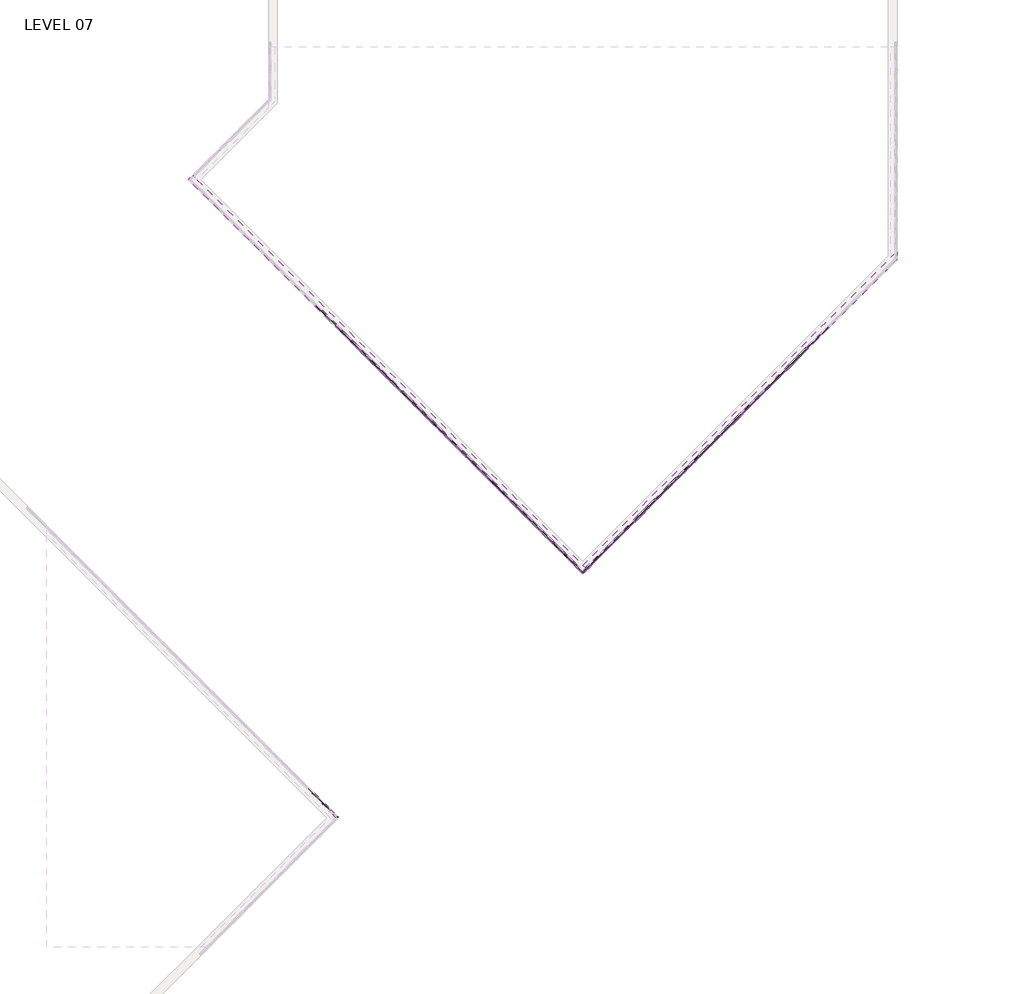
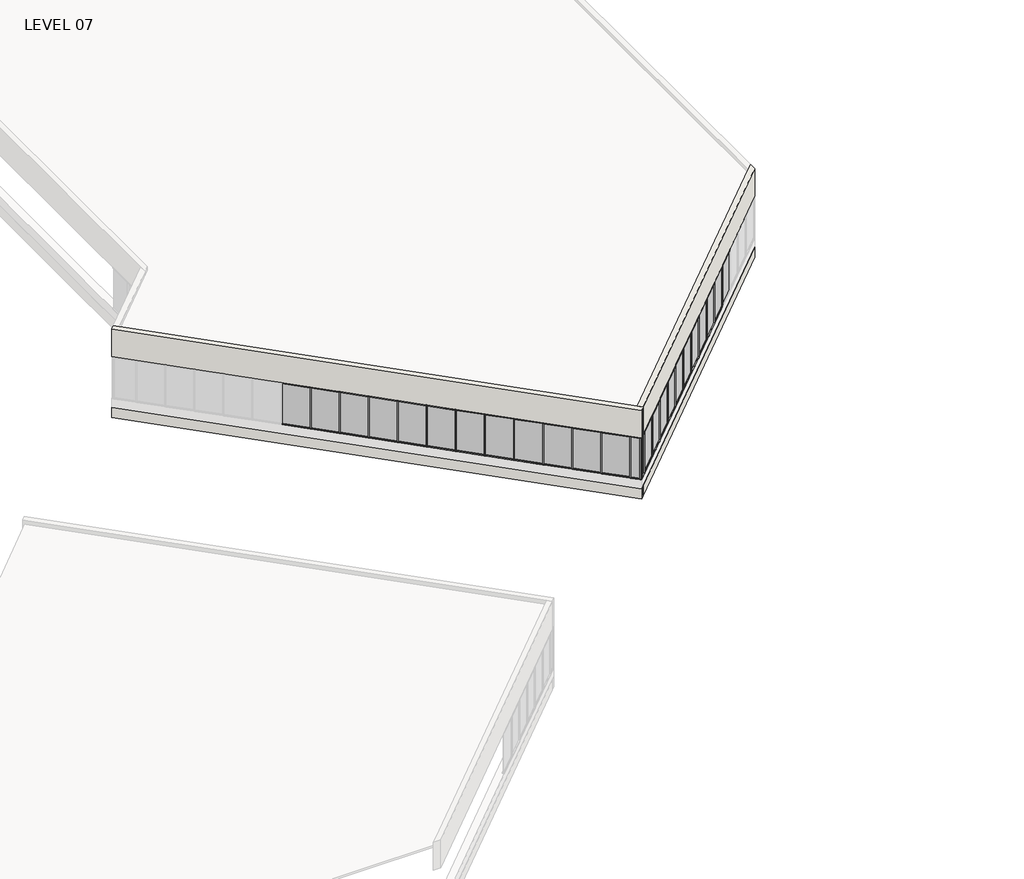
# One storey, part 11 of 18: 77 members, 25 plates, 4 walls.
"""IFC4 building model written with IfcOpenShell, lengths in millimetres."""

from ifc_helpers import new_model, si_unit, origin, place, context, project, spatial, faceted_brep, transform, mapped, element, save
from components import member_5247f267, member_e44af9ab, member_800970d4, member_25b26a38, member_ac5115e9, member_910c08c9, plate_67294edd, plate_6d527a83, plate_88df3e37, plate_c01932d8

model = new_model("IFC4")

# Units and contexts
model_context = context("Model", 3, world=origin())
ifc_project = project(units=[si_unit("LENGTHUNIT", "METRE", prefix="MILLI")], contexts=[model_context])

# Site, building, storey
site = spatial("IfcSite", under=ifc_project)
building = spatial("IfcBuilding", under=site)
storey = spatial("IfcBuildingStorey", under=building, Name="LEVEL 07", Elevation=23368.0)

# Members
placement = place(None, origin())
member_shape = member_5247f267(model_context)
element("IfcMember", 1, ObjectType="Rectangular Mullion : 2\" x 4.5\" rectangular", at=placement, inside=storey, context=model_context, shape_type="MappedRepresentation", body=[
    mapped(member_shape, transform((64227.3404937, 10894.4485141, 23368.0), x_axis=(0.0, 0.0, -1.0), y_axis=(0.7071067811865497, 0.7071067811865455, 0.0), z_axis=(0.7071067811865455, -0.7071067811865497, 0.0))),
])
member_2_shape = member_e44af9ab(model_context)
element("IfcMember", 2, ObjectType="Rectangular Mullion : 2\" x 4.5\" rectangular", at=placement, inside=storey, context=model_context, shape_type="MappedRepresentation", body=[
    mapped(member_2_shape, transform((64245.3010059, 10876.4880018, 23368.0), x_axis=(-0.7071067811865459, 0.7071067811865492, 0.0), y_axis=(0.7071067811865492, 0.7071067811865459, 0.0), z_axis=(0.0, 0.0, -1.0))),
])
member_3_shape = member_800970d4(model_context)
element("IfcMember", 3, ObjectType="Rectangular Mullion : 2\" x 4.5\" rectangular", at=placement, inside=storey, context=model_context, shape_type="MappedRepresentation", body=[
    mapped(member_3_shape, transform((64627.7311356, 10494.0578721, 25958.8), x_axis=(0.7071067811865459, -0.7071067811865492, 0.0), y_axis=(0.7071067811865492, 0.7071067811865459, 0.0), z_axis=(0.0, 0.0, 1.0))),
])
member_4_shape = member_25b26a38(model_context)
element("IfcMember", 4, ObjectType="Rectangular Mullion : 2\" x 4.5\" rectangular", at=placement, inside=storey, context=model_context, shape_type="MappedRepresentation", body=[
    mapped(member_4_shape, transform((64263.2615182, 10858.5274896, 25958.8), x_axis=(0.0, 0.0, 1.0), y_axis=(0.7071067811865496, 0.7071067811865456, 0.0), z_axis=(-0.7071067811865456, 0.7071067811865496, 0.0))),
])
element("IfcMember", 5, ObjectType="Rectangular Mullion : 2\" x 4.5\" rectangular", at=placement, inside=storey, context=model_context, shape_type="MappedRepresentation", body=[
    mapped(member_shape, transform((88026.379031, 33892.7057675, 25958.8), x_axis=(0.0, 0.0, 1.0), y_axis=(-0.707106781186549, 0.7071067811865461, 0.0), z_axis=(-0.7071067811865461, -0.707106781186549, 0.0))),
])
element("IfcMember", 6, ObjectType="Rectangular Mullion : 2\" x 4.5\" rectangular", at=placement, inside=storey, context=model_context, shape_type="MappedRepresentation", body=[
    mapped(member_shape, transform((85871.1175619, 31737.4442984, 25958.8), x_axis=(0.0, 0.0, 1.0), y_axis=(-0.7071067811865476, 0.7071067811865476, 0.0), z_axis=(-0.7071067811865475, -0.7071067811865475, 0.0))),
])
element("IfcMember", 7, ObjectType="Rectangular Mullion : 2\" x 4.5\" rectangular", at=placement, inside=storey, context=model_context, shape_type="MappedRepresentation", body=[
    mapped(member_shape, transform((84793.4868274, 30659.8135639, 25958.8), x_axis=(0.0, 0.0, 1.0), y_axis=(-0.7071067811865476, 0.7071067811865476, 0.0), z_axis=(-0.7071067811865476, -0.7071067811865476, 0.0))),
])
element("IfcMember", 8, ObjectType="Rectangular Mullion : 2\" x 4.5\" rectangular", at=placement, inside=storey, context=model_context, shape_type="MappedRepresentation", body=[
    mapped(member_shape, transform((83715.8560929, 29582.1828294, 25958.8), x_axis=(0.0, 0.0, 1.0), y_axis=(-0.7071067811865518, 0.7071067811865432, 0.0), z_axis=(-0.7071067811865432, -0.7071067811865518, 0.0))),
])
element("IfcMember", 9, ObjectType="Rectangular Mullion : 2\" x 4.5\" rectangular", at=placement, inside=storey, context=model_context, shape_type="MappedRepresentation", body=[
    mapped(member_shape, transform((78327.7024202, 24194.0291567, 25958.8), x_axis=(0.0, 0.0, 1.0), y_axis=(-0.7071067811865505, 0.7071067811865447, 0.0), z_axis=(-0.7071067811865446, -0.7071067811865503, 0.0))),
])
element("IfcMember", 10, ObjectType="Rectangular Mullion : 2\" x 4.5\" rectangular", at=placement, inside=storey, context=model_context, shape_type="MappedRepresentation", body=[
    mapped(member_shape, transform((86948.7482965, 32815.0750329, 25958.8), x_axis=(0.0, 0.0, 1.0), y_axis=(-0.7071067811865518, 0.7071067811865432, 0.0), z_axis=(-0.7071067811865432, -0.7071067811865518, 0.0))),
])
element("IfcMember", 11, ObjectType="Rectangular Mullion : 2\" x 4.5\" rectangular", at=placement, inside=storey, context=model_context, shape_type="MappedRepresentation", body=[
    mapped(member_shape, transform((81560.5946238, 27426.9213603, 25958.8), x_axis=(0.0, 0.0, 1.0), y_axis=(-0.7071067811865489, 0.7071067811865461, 0.0), z_axis=(-0.7071067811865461, -0.7071067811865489, 0.0))),
])
element("IfcMember", 12, ObjectType="Rectangular Mullion : 2\" x 4.5\" rectangular", at=placement, inside=storey, context=model_context, shape_type="MappedRepresentation", body=[
    mapped(member_shape, transform((82638.2253583, 28504.5520948, 25958.8), x_axis=(0.0, 0.0, 1.0), y_axis=(-0.7071067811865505, 0.7071067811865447, 0.0), z_axis=(-0.7071067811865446, -0.7071067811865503, 0.0))),
])
element("IfcMember", 13, ObjectType="Rectangular Mullion : 2\" x 4.5\" rectangular", at=placement, inside=storey, context=model_context, shape_type="MappedRepresentation", body=[
    mapped(member_shape, transform((80482.9638893, 26349.2906258, 25958.8), x_axis=(0.0, 0.0, 1.0), y_axis=(-0.7071067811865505, 0.7071067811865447, 0.0), z_axis=(-0.7071067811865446, -0.7071067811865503, 0.0))),
])
element("IfcMember", 14, ObjectType="Rectangular Mullion : 2\" x 4.5\" rectangular", at=placement, inside=storey, context=model_context, shape_type="MappedRepresentation", body=[
    mapped(member_shape, transform((79405.3331548, 25271.6598913, 25958.8), x_axis=(0.0, 0.0, 1.0), y_axis=(-0.7071067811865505, 0.7071067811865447, 0.0), z_axis=(-0.7071067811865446, -0.7071067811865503, 0.0))),
])
element("IfcMember", 15, ObjectType="Rectangular Mullion : 2\" x 4.5\" rectangular", at=placement, inside=storey, context=model_context, shape_type="MappedRepresentation", body=[
    mapped(member_shape, transform((77250.0716857, 23116.3984222, 25958.8), x_axis=(0.0, 0.0, 1.0), y_axis=(-0.7071067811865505, 0.7071067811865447, 0.0), z_axis=(-0.7071067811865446, -0.7071067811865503, 0.0))),
])
element("IfcMember", 16, ObjectType="Rectangular Mullion : 2\" x 4.5\" rectangular", at=placement, inside=storey, context=model_context, shape_type="MappedRepresentation", body=[
    mapped(member_shape, transform((75407.7593644, 24158.2868049, 25958.8), x_axis=(0.0, 0.0, 1.0), y_axis=(0.7071067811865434, 0.7071067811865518, 0.0), z_axis=(-0.7071067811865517, 0.7071067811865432, 0.0))),
])
element("IfcMember", 17, ObjectType="Rectangular Mullion : 2\" x 4.5\" rectangular", at=placement, inside=storey, context=model_context, shape_type="MappedRepresentation", body=[
    mapped(member_shape, transform((74330.1286299, 25235.9175394, 25958.8), x_axis=(0.0, 0.0, 1.0), y_axis=(0.7071067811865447, 0.7071067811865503, 0.0), z_axis=(-0.7071067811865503, 0.7071067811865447, 0.0))),
])
element("IfcMember", 18, ObjectType="Rectangular Mullion : 2\" x 4.5\" rectangular", at=placement, inside=storey, context=model_context, shape_type="MappedRepresentation", body=[
    mapped(member_shape, transform((73252.4978954, 26313.5482739, 25958.8), x_axis=(0.0, 0.0, 1.0), y_axis=(0.7071067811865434, 0.7071067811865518, 0.0), z_axis=(-0.7071067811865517, 0.7071067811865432, 0.0))),
])
element("IfcMember", 19, ObjectType="Rectangular Mullion : 2\" x 4.5\" rectangular", at=placement, inside=storey, context=model_context, shape_type="MappedRepresentation", body=[
    mapped(member_shape, transform((71097.2364263, 28468.809743, 25958.8), x_axis=(0.0, 0.0, 1.0), y_axis=(0.7071067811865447, 0.7071067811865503, 0.0), z_axis=(-0.7071067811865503, 0.7071067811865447, 0.0))),
])
element("IfcMember", 20, ObjectType="Rectangular Mullion : 2\" x 4.5\" rectangular", at=placement, inside=storey, context=model_context, shape_type="MappedRepresentation", body=[
    mapped(member_shape, transform((70019.6056918, 29546.4404775, 25958.8), x_axis=(0.0, 0.0, 1.0), y_axis=(0.7071067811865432, 0.7071067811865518, 0.0), z_axis=(-0.7071067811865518, 0.7071067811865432, 0.0))),
])
element("IfcMember", 21, ObjectType="Rectangular Mullion : 2\" x 4.5\" rectangular", at=placement, inside=storey, context=model_context, shape_type="MappedRepresentation", body=[
    mapped(member_shape, transform((68941.9749572, 30624.071212, 25958.8), x_axis=(0.0, 0.0, 1.0), y_axis=(0.7071067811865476, 0.7071067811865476, 0.0), z_axis=(-0.7071067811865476, 0.7071067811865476, 0.0))),
])
element("IfcMember", 22, ObjectType="Rectangular Mullion : 2\" x 4.5\" rectangular", at=placement, inside=storey, context=model_context, shape_type="MappedRepresentation", body=[
    mapped(member_shape, transform((67864.3442227, 31701.7019466, 25958.8), x_axis=(0.0, 0.0, 1.0), y_axis=(0.7071067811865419, 0.7071067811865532, 0.0), z_axis=(-0.7071067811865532, 0.7071067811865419, 0.0))),
])
element("IfcMember", 23, ObjectType="Rectangular Mullion : 2\" x 4.5\" rectangular", at=placement, inside=storey, context=model_context, shape_type="MappedRepresentation", body=[
    mapped(member_shape, transform((64631.8093644, 34934.2368049, 25958.8), x_axis=(0.0, 0.0, 1.0), y_axis=(0.7071067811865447, 0.7071067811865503, 0.0), z_axis=(-0.7071067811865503, 0.7071067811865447, 0.0))),
])
element("IfcMember", 24, ObjectType="Rectangular Mullion : 2\" x 4.5\" rectangular", at=placement, inside=storey, context=model_context, shape_type="MappedRepresentation", body=[
    mapped(member_shape, transform((72174.8671608, 27391.1790085, 25958.8), x_axis=(0.0, 0.0, 1.0), y_axis=(0.7071067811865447, 0.7071067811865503, 0.0), z_axis=(-0.7071067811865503, 0.7071067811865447, 0.0))),
])
element("IfcMember", 25, ObjectType="Rectangular Mullion : 2\" x 4.5\" rectangular", at=placement, inside=storey, context=model_context, shape_type="MappedRepresentation", body=[
    mapped(member_shape, transform((87990.4580065, 33856.784743, 23368.0), x_axis=(0.0, 0.0, -1.0), y_axis=(-0.7071067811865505, 0.7071067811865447, 0.0), z_axis=(0.7071067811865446, 0.7071067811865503, 0.0))),
])
element("IfcMember", 26, ObjectType="Rectangular Mullion : 2\" x 4.5\" rectangular", at=placement, inside=storey, context=model_context, shape_type="MappedRepresentation", body=[
    mapped(member_shape, transform((85835.1965374, 31701.5232739, 23368.0), x_axis=(0.0, 0.0, -1.0), y_axis=(-0.7071067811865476, 0.7071067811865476, 0.0), z_axis=(0.7071067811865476, 0.7071067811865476, 0.0))),
])
element("IfcMember", 27, ObjectType="Rectangular Mullion : 2\" x 4.5\" rectangular", at=placement, inside=storey, context=model_context, shape_type="MappedRepresentation", body=[
    mapped(member_shape, transform((84757.5658029, 30623.8925394, 23368.0), x_axis=(0.0, 0.0, -1.0), y_axis=(-0.7071067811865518, 0.7071067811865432, 0.0), z_axis=(0.7071067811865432, 0.7071067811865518, 0.0))),
])
element("IfcMember", 28, ObjectType="Rectangular Mullion : 2\" x 4.5\" rectangular", at=placement, inside=storey, context=model_context, shape_type="MappedRepresentation", body=[
    mapped(member_shape, transform((83679.9350684, 29546.2618049, 23368.0), x_axis=(0.0, 0.0, -1.0), y_axis=(-0.7071067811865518, 0.7071067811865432, 0.0), z_axis=(0.7071067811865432, 0.7071067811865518, 0.0))),
])
element("IfcMember", 29, ObjectType="Rectangular Mullion : 2\" x 4.5\" rectangular", at=placement, inside=storey, context=model_context, shape_type="MappedRepresentation", body=[
    mapped(member_shape, transform((78291.7813957, 24158.1081322, 23368.0), x_axis=(0.0, 0.0, -1.0), y_axis=(-0.7071067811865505, 0.7071067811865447, 0.0), z_axis=(0.7071067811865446, 0.7071067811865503, 0.0))),
])
element("IfcMember", 30, ObjectType="Rectangular Mullion : 2\" x 4.5\" rectangular", at=placement, inside=storey, context=model_context, shape_type="MappedRepresentation", body=[
    mapped(member_shape, transform((86912.827272, 32779.1540085, 23368.0), x_axis=(0.0, 0.0, -1.0), y_axis=(-0.7071067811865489, 0.7071067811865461, 0.0), z_axis=(0.7071067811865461, 0.7071067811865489, 0.0))),
])
element("IfcMember", 31, ObjectType="Rectangular Mullion : 2\" x 4.5\" rectangular", at=placement, inside=storey, context=model_context, shape_type="MappedRepresentation", body=[
    mapped(member_shape, transform((81524.6735993, 27391.0003358, 23368.0), x_axis=(0.0, 0.0, -1.0), y_axis=(-0.707106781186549, 0.7071067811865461, 0.0), z_axis=(0.7071067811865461, 0.707106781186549, 0.0))),
])
element("IfcMember", 32, ObjectType="Rectangular Mullion : 2\" x 4.5\" rectangular", at=placement, inside=storey, context=model_context, shape_type="MappedRepresentation", body=[
    mapped(member_shape, transform((82602.3043339, 28468.6310704, 23368.0), x_axis=(0.0, 0.0, -1.0), y_axis=(-0.7071067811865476, 0.7071067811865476, 0.0), z_axis=(0.7071067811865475, 0.7071067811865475, 0.0))),
])
element("IfcMember", 33, ObjectType="Rectangular Mullion : 2\" x 4.5\" rectangular", at=placement, inside=storey, context=model_context, shape_type="MappedRepresentation", body=[
    mapped(member_shape, transform((80447.0428648, 26313.3696013, 23368.0), x_axis=(0.0, 0.0, -1.0), y_axis=(-0.7071067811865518, 0.7071067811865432, 0.0), z_axis=(0.7071067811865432, 0.7071067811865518, 0.0))),
])
element("IfcMember", 34, ObjectType="Rectangular Mullion : 2\" x 4.5\" rectangular", at=placement, inside=storey, context=model_context, shape_type="MappedRepresentation", body=[
    mapped(member_shape, transform((79369.4121303, 25235.7388668, 23368.0), x_axis=(0.0, 0.0, -1.0), y_axis=(-0.7071067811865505, 0.7071067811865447, 0.0), z_axis=(0.7071067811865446, 0.7071067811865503, 0.0))),
])
element("IfcMember", 35, ObjectType="Rectangular Mullion : 2\" x 4.5\" rectangular", at=placement, inside=storey, context=model_context, shape_type="MappedRepresentation", body=[
    mapped(member_shape, transform((75371.8383399, 24194.2078294, 23368.0), x_axis=(0.0, 0.0, -1.0), y_axis=(0.7071067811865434, 0.7071067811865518, 0.0), z_axis=(0.7071067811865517, -0.7071067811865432, 0.0))),
])
element("IfcMember", 36, ObjectType="Rectangular Mullion : 2\" x 4.5\" rectangular", at=placement, inside=storey, context=model_context, shape_type="MappedRepresentation", body=[
    mapped(member_shape, transform((74294.2076054, 25271.8385639, 23368.0), x_axis=(0.0, 0.0, -1.0), y_axis=(0.7071067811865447, 0.7071067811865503, 0.0), z_axis=(0.7071067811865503, -0.7071067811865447, 0.0))),
])
element("IfcMember", 37, ObjectType="Rectangular Mullion : 2\" x 4.5\" rectangular", at=placement, inside=storey, context=model_context, shape_type="MappedRepresentation", body=[
    mapped(member_shape, transform((73216.5768709, 26349.4692984, 23368.0), x_axis=(0.0, 0.0, -1.0), y_axis=(0.7071067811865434, 0.7071067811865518, 0.0), z_axis=(0.7071067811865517, -0.7071067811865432, 0.0))),
])
element("IfcMember", 38, ObjectType="Rectangular Mullion : 2\" x 4.5\" rectangular", at=placement, inside=storey, context=model_context, shape_type="MappedRepresentation", body=[
    mapped(member_shape, transform((71061.3154018, 28504.7307675, 23368.0), x_axis=(0.0, 0.0, -1.0), y_axis=(0.7071067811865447, 0.7071067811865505, 0.0), z_axis=(0.7071067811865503, -0.7071067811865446, 0.0))),
])
element("IfcMember", 39, ObjectType="Rectangular Mullion : 2\" x 4.5\" rectangular", at=placement, inside=storey, context=model_context, shape_type="MappedRepresentation", body=[
    mapped(member_shape, transform((69983.6846673, 29582.361502, 23368.0), x_axis=(0.0, 0.0, -1.0), y_axis=(0.7071067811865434, 0.7071067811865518, 0.0), z_axis=(0.7071067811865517, -0.7071067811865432, 0.0))),
])
element("IfcMember", 40, ObjectType="Rectangular Mullion : 2\" x 4.5\" rectangular", at=placement, inside=storey, context=model_context, shape_type="MappedRepresentation", body=[
    mapped(member_shape, transform((68906.0539328, 30659.9922365, 23368.0), x_axis=(0.0, 0.0, -1.0), y_axis=(0.7071067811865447, 0.7071067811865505, 0.0), z_axis=(0.7071067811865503, -0.7071067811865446, 0.0))),
])
element("IfcMember", 41, ObjectType="Rectangular Mullion : 2\" x 4.5\" rectangular", at=placement, inside=storey, context=model_context, shape_type="MappedRepresentation", body=[
    mapped(member_shape, transform((65673.5190745, 33892.5270948, 23368.0), x_axis=(0.0, 0.0, -1.0), y_axis=(0.7071067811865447, 0.7071067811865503, 0.0), z_axis=(0.7071067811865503, -0.7071067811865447, 0.0))),
])
element("IfcMember", 42, ObjectType="Rectangular Mullion : 2\" x 4.5\" rectangular", at=placement, inside=storey, context=model_context, shape_type="MappedRepresentation", body=[
    mapped(member_shape, transform((64595.8883399, 34970.1578294, 23368.0), x_axis=(0.0, 0.0, -1.0), y_axis=(0.7071067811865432, 0.7071067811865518, 0.0), z_axis=(0.7071067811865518, -0.7071067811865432, 0.0))),
])
element("IfcMember", 43, ObjectType="Rectangular Mullion : 2\" x 4.5\" rectangular", at=placement, inside=storey, context=model_context, shape_type="MappedRepresentation", body=[
    mapped(member_shape, transform((72138.9461363, 27427.1000329, 23368.0), x_axis=(0.0, 0.0, -1.0), y_axis=(0.7071067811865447, 0.7071067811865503, 0.0), z_axis=(0.7071067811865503, -0.7071067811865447, 0.0))),
])
element("IfcMember", 44, ObjectType="Rectangular Mullion : 2\" x 4.5\" rectangular", at=placement, inside=storey, context=model_context, shape_type="MappedRepresentation", body=[
    mapped(member_shape, transform((76449.4690745, 23116.5770948, 23368.0), x_axis=(0.0, 0.0, -1.0), y_axis=(0.7071067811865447, 0.7071067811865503, 0.0), z_axis=(0.7071067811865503, -0.7071067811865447, 0.0))),
])
element("IfcMember", 45, ObjectType="Rectangular Mullion : 2\" x 4.5\" rectangular", at=placement, inside=storey, context=model_context, shape_type="MappedRepresentation", body=[
    mapped(member_2_shape, transform((88008.4185187, 33874.7452552, 23368.0), x_axis=(-0.7071067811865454, -0.7071067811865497, 0.0), y_axis=(-0.7071067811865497, 0.7071067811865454, 0.0), z_axis=(0.0, 0.0, -1.0))),
])
element("IfcMember", 46, ObjectType="Rectangular Mullion : 2\" x 4.5\" rectangular", at=placement, inside=storey, context=model_context, shape_type="MappedRepresentation", body=[
    mapped(member_2_shape, transform((85853.1570497, 31719.4837862, 23368.0), x_axis=(-0.7071067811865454, -0.7071067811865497, 0.0), y_axis=(-0.7071067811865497, 0.7071067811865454, 0.0), z_axis=(0.0, 0.0, -1.0))),
])
element("IfcMember", 47, ObjectType="Rectangular Mullion : 2\" x 4.5\" rectangular", at=placement, inside=storey, context=model_context, shape_type="MappedRepresentation", body=[
    mapped(member_2_shape, transform((84775.5263152, 30641.8530517, 23368.0), x_axis=(-0.7071067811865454, -0.7071067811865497, 0.0), y_axis=(-0.7071067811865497, 0.7071067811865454, 0.0), z_axis=(0.0, 0.0, -1.0))),
])
element("IfcMember", 48, ObjectType="Rectangular Mullion : 2\" x 4.5\" rectangular", at=placement, inside=storey, context=model_context, shape_type="MappedRepresentation", body=[
    mapped(member_2_shape, transform((83697.8955806, 29564.2223171, 23368.0), x_axis=(-0.7071067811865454, -0.7071067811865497, 0.0), y_axis=(-0.7071067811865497, 0.7071067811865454, 0.0), z_axis=(0.0, 0.0, -1.0))),
])
element("IfcMember", 49, ObjectType="Rectangular Mullion : 2\" x 4.5\" rectangular", at=placement, inside=storey, context=model_context, shape_type="MappedRepresentation", body=[
    mapped(member_2_shape, transform((78309.741908, 24176.0686445, 23368.0), x_axis=(-0.7071067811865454, -0.7071067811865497, 0.0), y_axis=(-0.7071067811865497, 0.7071067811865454, 0.0), z_axis=(0.0, 0.0, -1.0))),
])
element("IfcMember", 50, ObjectType="Rectangular Mullion : 2\" x 4.5\" rectangular", at=placement, inside=storey, context=model_context, shape_type="MappedRepresentation", body=[
    mapped(member_2_shape, transform((86930.7877842, 32797.1145207, 23368.0), x_axis=(-0.7071067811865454, -0.7071067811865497, 0.0), y_axis=(-0.7071067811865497, 0.7071067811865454, 0.0), z_axis=(0.0, 0.0, -1.0))),
])
element("IfcMember", 51, ObjectType="Rectangular Mullion : 2\" x 4.5\" rectangular", at=placement, inside=storey, context=model_context, shape_type="MappedRepresentation", body=[
    mapped(member_2_shape, transform((81542.6341116, 27408.9608481, 23368.0), x_axis=(-0.7071067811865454, -0.7071067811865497, 0.0), y_axis=(-0.7071067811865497, 0.7071067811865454, 0.0), z_axis=(0.0, 0.0, -1.0))),
])
element("IfcMember", 52, ObjectType="Rectangular Mullion : 2\" x 4.5\" rectangular", at=placement, inside=storey, context=model_context, shape_type="MappedRepresentation", body=[
    mapped(member_2_shape, transform((82620.2648461, 28486.5915826, 23368.0), x_axis=(-0.7071067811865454, -0.7071067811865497, 0.0), y_axis=(-0.7071067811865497, 0.7071067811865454, 0.0), z_axis=(0.0, 0.0, -1.0))),
])
element("IfcMember", 53, ObjectType="Rectangular Mullion : 2\" x 4.5\" rectangular", at=placement, inside=storey, context=model_context, shape_type="MappedRepresentation", body=[
    mapped(member_2_shape, transform((80465.003377, 26331.3301135, 23368.0), x_axis=(-0.7071067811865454, -0.7071067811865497, 0.0), y_axis=(-0.7071067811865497, 0.7071067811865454, 0.0), z_axis=(0.0, 0.0, -1.0))),
])
element("IfcMember", 54, ObjectType="Rectangular Mullion : 2\" x 4.5\" rectangular", at=placement, inside=storey, context=model_context, shape_type="MappedRepresentation", body=[
    mapped(member_2_shape, transform((79387.3726425, 25253.699379, 23368.0), x_axis=(-0.7071067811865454, -0.7071067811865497, 0.0), y_axis=(-0.7071067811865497, 0.7071067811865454, 0.0), z_axis=(0.0, 0.0, -1.0))),
])
element("IfcMember", 55, ObjectType="Rectangular Mullion : 2\" x 4.5\" rectangular", at=placement, inside=storey, context=model_context, shape_type="MappedRepresentation", body=[
    mapped(member_2_shape, transform((77232.1111735, 23098.43791, 23368.0), x_axis=(-0.7071067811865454, -0.7071067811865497, 0.0), y_axis=(-0.7071067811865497, 0.7071067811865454, 0.0), z_axis=(0.0, 0.0, -1.0))),
])
element("IfcMember", 56, ObjectType="Rectangular Mullion : 2\" x 4.5\" rectangular", at=placement, inside=storey, context=model_context, shape_type="MappedRepresentation", body=[
    mapped(member_2_shape, transform((75389.7988522, 24176.2473171, 23368.0), x_axis=(-0.7071067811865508, 0.7071067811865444, 0.0), y_axis=(0.7071067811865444, 0.7071067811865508, 0.0), z_axis=(0.0, 0.0, -1.0))),
])
element("IfcMember", 57, ObjectType="Rectangular Mullion : 2\" x 4.5\" rectangular", at=placement, inside=storey, context=model_context, shape_type="MappedRepresentation", body=[
    mapped(member_2_shape, transform((74312.1681176, 25253.8780517, 23368.0), x_axis=(-0.7071067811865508, 0.7071067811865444, 0.0), y_axis=(0.7071067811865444, 0.7071067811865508, 0.0), z_axis=(0.0, 0.0, -1.0))),
])
element("IfcMember", 58, ObjectType="Rectangular Mullion : 2\" x 4.5\" rectangular", at=placement, inside=storey, context=model_context, shape_type="MappedRepresentation", body=[
    mapped(member_2_shape, transform((73234.5373831, 26331.5087862, 23368.0), x_axis=(-0.7071067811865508, 0.7071067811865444, 0.0), y_axis=(0.7071067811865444, 0.7071067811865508, 0.0), z_axis=(0.0, 0.0, -1.0))),
])
element("IfcMember", 59, ObjectType="Rectangular Mullion : 2\" x 4.5\" rectangular", at=placement, inside=storey, context=model_context, shape_type="MappedRepresentation", body=[
    mapped(member_2_shape, transform((71079.2759141, 28486.7702552, 23368.0), x_axis=(-0.7071067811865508, 0.7071067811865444, 0.0), y_axis=(0.7071067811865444, 0.7071067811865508, 0.0), z_axis=(0.0, 0.0, -1.0))),
])
element("IfcMember", 60, ObjectType="Rectangular Mullion : 2\" x 4.5\" rectangular", at=placement, inside=storey, context=model_context, shape_type="MappedRepresentation", body=[
    mapped(member_2_shape, transform((70001.6451795, 29564.4009898, 23368.0), x_axis=(-0.7071067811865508, 0.7071067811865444, 0.0), y_axis=(0.7071067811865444, 0.7071067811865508, 0.0), z_axis=(0.0, 0.0, -1.0))),
])
element("IfcMember", 61, ObjectType="Rectangular Mullion : 2\" x 4.5\" rectangular", at=placement, inside=storey, context=model_context, shape_type="MappedRepresentation", body=[
    mapped(member_2_shape, transform((68924.014445, 30642.0317243, 23368.0), x_axis=(-0.7071067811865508, 0.7071067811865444, 0.0), y_axis=(0.7071067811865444, 0.7071067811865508, 0.0), z_axis=(0.0, 0.0, -1.0))),
])
element("IfcMember", 62, ObjectType="Rectangular Mullion : 2\" x 4.5\" rectangular", at=placement, inside=storey, context=model_context, shape_type="MappedRepresentation", body=[
    mapped(member_2_shape, transform((67846.3837105, 31719.6624588, 23368.0), x_axis=(-0.7071067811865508, 0.7071067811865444, 0.0), y_axis=(0.7071067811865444, 0.7071067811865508, 0.0), z_axis=(0.0, 0.0, -1.0))),
])
element("IfcMember", 63, ObjectType="Rectangular Mullion : 2\" x 4.5\" rectangular", at=placement, inside=storey, context=model_context, shape_type="MappedRepresentation", body=[
    mapped(member_2_shape, transform((65691.4795867, 33874.5665826, 23368.0), x_axis=(-0.7071067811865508, 0.7071067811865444, 0.0), y_axis=(0.7071067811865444, 0.7071067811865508, 0.0), z_axis=(0.0, 0.0, -1.0))),
])
element("IfcMember", 64, ObjectType="Rectangular Mullion : 2\" x 4.5\" rectangular", at=placement, inside=storey, context=model_context, shape_type="MappedRepresentation", body=[
    mapped(member_2_shape, transform((64613.8488522, 34952.1973171, 23368.0), x_axis=(-0.7071067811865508, 0.7071067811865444, 0.0), y_axis=(0.7071067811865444, 0.7071067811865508, 0.0), z_axis=(0.0, 0.0, -1.0))),
])
element("IfcMember", 65, ObjectType="Rectangular Mullion : 2\" x 4.5\" rectangular", at=placement, inside=storey, context=model_context, shape_type="MappedRepresentation", body=[
    mapped(member_2_shape, transform((72156.9066486, 27409.1395207, 23368.0), x_axis=(-0.7071067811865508, 0.7071067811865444, 0.0), y_axis=(0.7071067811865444, 0.7071067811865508, 0.0), z_axis=(0.0, 0.0, -1.0))),
])
element("IfcMember", 66, ObjectType="Rectangular Mullion : 2\" x 4.5\" rectangular", at=placement, inside=storey, context=model_context, shape_type="MappedRepresentation", body=[
    mapped(member_2_shape, transform((76467.4295867, 23098.6165826, 23368.0), x_axis=(-0.7071067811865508, 0.7071067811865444, 0.0), y_axis=(0.7071067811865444, 0.7071067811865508, 0.0), z_axis=(0.0, 0.0, -1.0))),
])
element("IfcMember", 67, ObjectType="Rectangular Mullion : 2\" x 4.5\" rectangular", at=placement, inside=storey, context=model_context, shape_type="MappedRepresentation", body=[
    mapped(member_2_shape, transform((66768.9316486, 32797.1145207, 23368.0), x_axis=(-0.7071067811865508, 0.7071067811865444, 0.0), y_axis=(0.7071067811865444, 0.7071067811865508, 0.0), z_axis=(0.0, 0.0, -1.0))),
])
element("IfcMember", 68, ObjectType="Rectangular Mullion : 2\" x 4.5\" rectangular", at=placement, inside=storey, context=model_context, shape_type="MappedRepresentation", body=[
    mapped(member_3_shape, transform((76849.8597164, 22716.1864529, 23368.0), x_axis=(-0.7071067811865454, -0.7071067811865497, 0.0), y_axis=(-0.7071067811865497, 0.7071067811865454, 0.0), z_axis=(0.0, 0.0, -1.0))),
])
element("IfcMember", 69, ObjectType="Rectangular Mullion : 2\" x 4.5\" rectangular", at=placement, inside=storey, context=model_context, shape_type="MappedRepresentation", body=[
    mapped(member_3_shape, transform((76849.8597164, 22716.1864529, 25958.8), x_axis=(0.7071067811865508, -0.7071067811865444, 0.0), y_axis=(0.7071067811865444, 0.7071067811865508, 0.0), z_axis=(0.0, 0.0, 1.0))),
])
element("IfcMember", 70, ObjectType="Rectangular Mullion : 2\" x 4.5\" rectangular", at=placement, inside=storey, context=model_context, shape_type="MappedRepresentation", body=[
    mapped(member_4_shape, transform((76485.3900989, 23080.6560704, 25958.8), x_axis=(0.0, 0.0, 1.0), y_axis=(0.7071067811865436, 0.7071067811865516, 0.0), z_axis=(-0.7071067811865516, 0.7071067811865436, 0.0))),
])
element("IfcMember", 71, ObjectType="Rectangular Mullion : 2\" x 4.5\" rectangular", at=placement, inside=storey, context=model_context, shape_type="MappedRepresentation", body=[
    mapped(member_4_shape, transform((76813.9386919, 22752.1074774, 23368.0), x_axis=(0.0, 0.0, -1.0), y_axis=(0.7071067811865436, 0.7071067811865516, 0.0), z_axis=(0.7071067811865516, -0.7071067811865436, 0.0))),
])
member_5_shape = member_ac5115e9(model_context)
element("IfcMember", 72, ObjectType="Rectangular Mullion : 2\" x 4.5\" rectangular", at=placement, inside=storey, context=model_context, shape_type="MappedRepresentation", body=[
    mapped(member_5_shape, transform((76885.7807409, 22752.1074774, 25958.8), x_axis=(0.0, 0.0, 1.0), y_axis=(-0.7071067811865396, 0.7071067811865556, 0.0), z_axis=(-0.7071067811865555, -0.7071067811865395, 0.0))),
])
element("IfcMember", 73, ObjectType="Rectangular Mullion : 2\" x 4.5\" rectangular", at=placement, inside=storey, context=model_context, shape_type="MappedRepresentation", body=[
    mapped(member_5_shape, transform((77214.1506612, 23080.4773977, 23368.0), x_axis=(0.0, 0.0, -1.0), y_axis=(-0.7071067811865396, 0.7071067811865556, 0.0), z_axis=(0.7071067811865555, 0.7071067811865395, 0.0))),
])
member_6_shape = member_910c08c9(model_context)
element("IfcMember", 74, ObjectType="Rectangular Mullion : 2\" x 4.5\" rectangular", at=placement, inside=storey, context=model_context, shape_type="MappedRepresentation", body=[
    mapped(member_6_shape, transform((65709.4400989, 33856.6060704, 25958.8), x_axis=(0.0, 0.0, 1.0), y_axis=(0.7071067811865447, 0.7071067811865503, 0.0), z_axis=(-0.7071067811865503, 0.7071067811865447, 0.0))),
])
element("IfcMember", 75, ObjectType="Rectangular Mullion : 2\" x 4.5\" rectangular", at=placement, inside=storey, context=model_context, shape_type="MappedRepresentation", body=[
    mapped(member_6_shape, transform((66786.8921608, 32779.1540085, 25958.8), x_axis=(0.0, 0.0, 1.0), y_axis=(0.7071067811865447, 0.7071067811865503, 0.0), z_axis=(-0.7071067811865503, 0.7071067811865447, 0.0))),
])
element("IfcMember", 76, ObjectType="Rectangular Mullion : 2\" x 4.5\" rectangular", at=placement, inside=storey, context=model_context, shape_type="MappedRepresentation", body=[
    mapped(member_6_shape, transform((67828.4231982, 31737.6229711, 23368.0), x_axis=(0.0, 0.0, -1.0), y_axis=(0.7071067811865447, 0.7071067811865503, 0.0), z_axis=(0.7071067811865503, -0.7071067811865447, 0.0))),
])
element("IfcMember", 77, ObjectType="Rectangular Mullion : 2\" x 4.5\" rectangular", at=placement, inside=storey, context=model_context, shape_type="MappedRepresentation", body=[
    mapped(member_6_shape, transform((66750.9711363, 32815.0750329, 23368.0), x_axis=(0.0, 0.0, -1.0), y_axis=(0.7071067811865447, 0.7071067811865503, 0.0), z_axis=(0.7071067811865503, -0.7071067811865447, 0.0))),
])

# Plates
plate_shape = plate_67294edd(model_context)
element("IfcPlate", 78, ObjectType="System Panel : 1/4\" Glass", at=placement, inside=storey, context=model_context, shape_type="MappedRepresentation", body=[
    mapped(plate_shape, transform((88547.233886, 34413.5606225, 23418.8), x_axis=(-0.7071067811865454, -0.7071067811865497, 0.0), y_axis=(0.7071067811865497, -0.7071067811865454, 0.0), z_axis=(0.0, 0.0, 1.0))),
])
element("IfcPlate", 79, ObjectType="System Panel : 1/4\" Glass", at=placement, inside=storey, context=model_context, shape_type="MappedRepresentation", body=[
    mapped(plate_shape, transform((87469.6031515, 33335.929888, 23418.8), x_axis=(-0.7071067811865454, -0.7071067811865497, 0.0), y_axis=(0.7071067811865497, -0.7071067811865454, 0.0), z_axis=(0.0, 0.0, 1.0))),
])
element("IfcPlate", 80, ObjectType="System Panel : 1/4\" Glass", at=placement, inside=storey, context=model_context, shape_type="MappedRepresentation", body=[
    mapped(plate_shape, transform((85314.3416824, 31180.6684189, 23418.8), x_axis=(-0.7071067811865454, -0.7071067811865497, 0.0), y_axis=(0.7071067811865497, -0.7071067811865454, 0.0), z_axis=(0.0, 0.0, 1.0))),
])
element("IfcPlate", 81, ObjectType="System Panel : 1/4\" Glass", at=placement, inside=storey, context=model_context, shape_type="MappedRepresentation", body=[
    mapped(plate_shape, transform((84236.7109479, 30103.0376844, 23418.8), x_axis=(-0.7071067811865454, -0.7071067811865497, 0.0), y_axis=(0.7071067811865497, -0.7071067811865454, 0.0), z_axis=(0.0, 0.0, 1.0))),
])
element("IfcPlate", 82, ObjectType="System Panel : 1/4\" Glass", at=placement, inside=storey, context=model_context, shape_type="MappedRepresentation", body=[
    mapped(plate_shape, transform((83159.0802134, 29025.4069499, 23418.8), x_axis=(-0.7071067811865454, -0.7071067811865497, 0.0), y_axis=(0.7071067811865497, -0.7071067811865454, 0.0), z_axis=(0.0, 0.0, 1.0))),
])
element("IfcPlate", 83, ObjectType="System Panel : 1/4\" Glass", at=placement, inside=storey, context=model_context, shape_type="MappedRepresentation", body=[
    mapped(plate_shape, transform((77770.9265407, 23637.2532772, 23418.8), x_axis=(-0.7071067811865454, -0.7071067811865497, 0.0), y_axis=(0.7071067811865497, -0.7071067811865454, 0.0), z_axis=(0.0, 0.0, 1.0))),
])
element("IfcPlate", 84, ObjectType="System Panel : 1/4\" Glass", at=placement, inside=storey, context=model_context, shape_type="MappedRepresentation", body=[
    mapped(plate_shape, transform((86391.972417, 32258.2991534, 23418.8), x_axis=(-0.7071067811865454, -0.7071067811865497, 0.0), y_axis=(0.7071067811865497, -0.7071067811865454, 0.0), z_axis=(0.0, 0.0, 1.0))),
])
element("IfcPlate", 85, ObjectType="System Panel : 1/4\" Glass", at=placement, inside=storey, context=model_context, shape_type="MappedRepresentation", body=[
    mapped(plate_shape, transform((81003.8187443, 26870.1454808, 23418.8), x_axis=(-0.7071067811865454, -0.7071067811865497, 0.0), y_axis=(0.7071067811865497, -0.7071067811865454, 0.0), z_axis=(0.0, 0.0, 1.0))),
])
element("IfcPlate", 86, ObjectType="System Panel : 1/4\" Glass", at=placement, inside=storey, context=model_context, shape_type="MappedRepresentation", body=[
    mapped(plate_shape, transform((82081.4494788, 27947.7762153, 23418.8), x_axis=(-0.7071067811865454, -0.7071067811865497, 0.0), y_axis=(0.7071067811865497, -0.7071067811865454, 0.0), z_axis=(0.0, 0.0, 1.0))),
])
element("IfcPlate", 87, ObjectType="System Panel : 1/4\" Glass", at=placement, inside=storey, context=model_context, shape_type="MappedRepresentation", body=[
    mapped(plate_shape, transform((79926.1880098, 25792.5147463, 23418.8), x_axis=(-0.7071067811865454, -0.7071067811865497, 0.0), y_axis=(0.7071067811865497, -0.7071067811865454, 0.0), z_axis=(0.0, 0.0, 1.0))),
])
element("IfcPlate", 88, ObjectType="System Panel : 1/4\" Glass", at=placement, inside=storey, context=model_context, shape_type="MappedRepresentation", body=[
    mapped(plate_shape, transform((78848.5572753, 24714.8840117, 23418.8), x_axis=(-0.7071067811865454, -0.7071067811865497, 0.0), y_axis=(0.7071067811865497, -0.7071067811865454, 0.0), z_axis=(0.0, 0.0, 1.0))),
])
element("IfcPlate", 89, ObjectType="System Panel : 1/4\" Glass", at=placement, inside=storey, context=model_context, shape_type="MappedRepresentation", body=[
    mapped(plate_shape, transform((74850.9834849, 24715.0626844, 23418.8), x_axis=(-0.7071067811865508, 0.7071067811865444, 0.0), y_axis=(-0.7071067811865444, -0.7071067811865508, 0.0), z_axis=(0.0, 0.0, 1.0))),
])
element("IfcPlate", 90, ObjectType="System Panel : 1/4\" Glass", at=placement, inside=storey, context=model_context, shape_type="MappedRepresentation", body=[
    mapped(plate_shape, transform((73773.3527504, 25792.6934189, 23418.8), x_axis=(-0.7071067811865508, 0.7071067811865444, 0.0), y_axis=(-0.7071067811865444, -0.7071067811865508, 0.0), z_axis=(0.0, 0.0, 1.0))),
])
element("IfcPlate", 91, ObjectType="System Panel : 1/4\" Glass", at=placement, inside=storey, context=model_context, shape_type="MappedRepresentation", body=[
    mapped(plate_shape, transform((72695.7220159, 26870.3241534, 23418.8), x_axis=(-0.7071067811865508, 0.7071067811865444, 0.0), y_axis=(-0.7071067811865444, -0.7071067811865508, 0.0), z_axis=(0.0, 0.0, 1.0))),
])
element("IfcPlate", 92, ObjectType="System Panel : 1/4\" Glass", at=placement, inside=storey, context=model_context, shape_type="MappedRepresentation", body=[
    mapped(plate_shape, transform((70540.4605468, 29025.5856225, 23418.8), x_axis=(-0.7071067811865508, 0.7071067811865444, 0.0), y_axis=(-0.7071067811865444, -0.7071067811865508, 0.0), z_axis=(0.0, 0.0, 1.0))),
])
element("IfcPlate", 93, ObjectType="System Panel : 1/4\" Glass", at=placement, inside=storey, context=model_context, shape_type="MappedRepresentation", body=[
    mapped(plate_shape, transform((69462.8298123, 30103.216357, 23418.8), x_axis=(-0.7071067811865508, 0.7071067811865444, 0.0), y_axis=(-0.7071067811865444, -0.7071067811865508, 0.0), z_axis=(0.0, 0.0, 1.0))),
])
element("IfcPlate", 94, ObjectType="System Panel : 1/4\" Glass", at=placement, inside=storey, context=model_context, shape_type="MappedRepresentation", body=[
    mapped(plate_shape, transform((68385.1990777, 31180.8470916, 23418.8), x_axis=(-0.7071067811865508, 0.7071067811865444, 0.0), y_axis=(-0.7071067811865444, -0.7071067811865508, 0.0), z_axis=(0.0, 0.0, 1.0))),
])
element("IfcPlate", 95, ObjectType="System Panel : 1/4\" Glass", at=placement, inside=storey, context=model_context, shape_type="MappedRepresentation", body=[
    mapped(plate_shape, transform((65152.6642194, 34413.3819499, 23418.8), x_axis=(-0.7071067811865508, 0.7071067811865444, 0.0), y_axis=(-0.7071067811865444, -0.7071067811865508, 0.0), z_axis=(0.0, 0.0, 1.0))),
])
element("IfcPlate", 96, ObjectType="System Panel : 1/4\" Glass", at=placement, inside=storey, context=model_context, shape_type="MappedRepresentation", body=[
    mapped(plate_shape, transform((64075.0334849, 35491.0126844, 23418.8), x_axis=(-0.7071067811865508, 0.7071067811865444, 0.0), y_axis=(-0.7071067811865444, -0.7071067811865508, 0.0), z_axis=(0.0, 0.0, 1.0))),
])
element("IfcPlate", 97, ObjectType="System Panel : 1/4\" Glass", at=placement, inside=storey, context=model_context, shape_type="MappedRepresentation", body=[
    mapped(plate_shape, transform((71618.0912813, 27947.954888, 23418.8), x_axis=(-0.7071067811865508, 0.7071067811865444, 0.0), y_axis=(-0.7071067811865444, -0.7071067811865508, 0.0), z_axis=(0.0, 0.0, 1.0))),
])
element("IfcPlate", 98, ObjectType="System Panel : 1/4\" Glass", at=placement, inside=storey, context=model_context, shape_type="MappedRepresentation", body=[
    mapped(plate_shape, transform((75928.6142194, 23637.4319499, 23418.8), x_axis=(-0.7071067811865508, 0.7071067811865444, 0.0), y_axis=(-0.7071067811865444, -0.7071067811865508, 0.0), z_axis=(0.0, 0.0, 1.0))),
])
plate_2_shape = plate_6d527a83(model_context)
element("IfcPlate", 99, ObjectType="System Panel : 1/4\" Glass", at=placement, inside=storey, context=model_context, shape_type="MappedRepresentation", body=[
    mapped(plate_2_shape, transform((76649.6643954, 22916.3817739, 23418.8), x_axis=(-0.7071067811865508, 0.7071067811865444, 0.0), y_axis=(-0.7071067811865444, -0.7071067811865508, 0.0), z_axis=(0.0, 0.0, 1.0))),
])
plate_3_shape = plate_88df3e37(model_context)
element("IfcPlate", 100, ObjectType="System Panel : 1/4\" Glass", at=placement, inside=storey, context=model_context, shape_type="MappedRepresentation", body=[
    mapped(plate_3_shape, transform((67307.6576795, 32258.3884898, 23418.8), x_axis=(-0.7071067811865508, 0.7071067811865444, 0.0), y_axis=(-0.7071067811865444, -0.7071067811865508, 0.0), z_axis=(0.0, 0.0, 1.0))),
])
element("IfcPlate", 101, ObjectType="System Panel : 1/4\" Glass", at=placement, inside=storey, context=model_context, shape_type="MappedRepresentation", body=[
    mapped(plate_3_shape, transform((66230.2056176, 33335.8405517, 23418.8), x_axis=(-0.7071067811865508, 0.7071067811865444, 0.0), y_axis=(-0.7071067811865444, -0.7071067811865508, 0.0), z_axis=(0.0, 0.0, 1.0))),
])
plate_4_shape = plate_c01932d8(model_context)
element("IfcPlate", 102, ObjectType="System Panel : 1/4\" Glass", at=placement, inside=storey, context=model_context, shape_type="MappedRepresentation", body=[
    mapped(plate_4_shape, transform((77049.9657011, 22916.2924375, 23418.8), x_axis=(-0.7071067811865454, -0.7071067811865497, 0.0), y_axis=(0.7071067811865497, -0.7071067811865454, 0.0), z_axis=(0.0, 0.0, 1.0))),
])

# Walls
element("IfcWall", 103, ObjectType="01-CONCRETE-12", at=placement, inside=storey, context=model_context, shape_type="Brep", body=[
    faceted_brep([(57207.2562757, 42277.9675885, 22186.9), (76849.8597164, 22635.3641478, 22186.9), (76849.8597164, 22635.3641478, 22809.2), (57207.2562757, 42277.9675885, 22809.2), (57422.7824226, 42493.4937354, 22186.9), (57422.7824226, 42493.4937354, 22809.2), (57638.3085695, 42277.9675885, 22809.2), (76849.8597164, 23066.4164416, 22809.2), (77065.3858633, 22850.8902947, 22809.2), (77065.3858633, 22850.8902947, 22186.9), (76849.8597164, 23066.4164416, 22186.9), (57638.3085695, 42277.9675885, 22186.9)], [[[0, 1, 2, 3]], [[4, 5, 6, 7, 8, 9, 10, 11]], [[1, 0, 4, 11, 10, 9]], [[3, 2, 8, 7, 6, 5]], [[0, 3, 5, 4]], [[2, 1, 9, 8]]]),
])
element("IfcWall", 104, ObjectType="01-CONCRETE-12", at=placement, inside=storey, context=model_context, shape_type="Brep", body=[
    faceted_brep([(77065.3858633, 22850.8902947, 22186.9), (92493.0847164, 38278.5891478, 22186.9), (92493.0847164, 38278.5891478, 22809.2), (77065.3858633, 22850.8902947, 22809.2), (76849.8597164, 23066.4164416, 22186.9), (76849.8597164, 23066.4164416, 22809.2), (92188.2847164, 38404.8414416, 22809.2), (92493.0847164, 38709.6414416, 22809.2), (92493.0847164, 38709.6414416, 22186.9), (92188.2847164, 38404.8414416, 22186.9)], [[[0, 1, 2, 3]], [[4, 5, 6, 7, 8, 9]], [[1, 0, 4, 9, 8]], [[3, 2, 7, 6, 5]], [[2, 1, 8, 7]], [[0, 3, 5, 4]]]),
])
element("IfcWall", 105, ObjectType="01-CONCRETE-12", at=placement, inside=storey, context=model_context, shape_type="Brep", body=[
    faceted_brep([(57207.2562757, 42277.9675885, 25958.8), (76849.8597164, 22635.3641478, 25958.8), (76849.8597164, 22635.3641478, 27673.3), (57207.2562757, 42277.9675885, 27673.3), (57422.7824226, 42493.4937354, 25958.8), (57422.7824226, 42493.4937354, 27673.3), (57638.3085695, 42277.9675885, 27673.3), (76849.8597164, 23066.4164416, 27673.3), (77065.3858633, 22850.8902947, 27673.3), (77065.3858633, 22850.8902947, 25958.8), (76849.8597164, 23066.4164416, 25958.8), (57638.3085695, 42277.9675885, 25958.8)], [[[0, 1, 2, 3]], [[4, 5, 6, 7, 8, 9, 10, 11]], [[1, 0, 4, 11, 10, 9]], [[3, 2, 8, 7, 6, 5]], [[0, 3, 5, 4]], [[2, 1, 9, 8]]]),
])
element("IfcWall", 106, ObjectType="01-CONCRETE-12", at=placement, inside=storey, context=model_context, shape_type="Brep", body=[
    faceted_brep([(77065.3858633, 22850.8902947, 25958.8), (92493.0847164, 38278.5891478, 25958.8), (92493.0847164, 38278.5891478, 27673.3), (77065.3858633, 22850.8902947, 27673.3), (76849.8597164, 23066.4164416, 25958.8), (76849.8597164, 23066.4164416, 27673.3), (92188.2847164, 38404.8414416, 27673.3), (92493.0847164, 38709.6414416, 27673.3), (92493.0847164, 38709.6414416, 25958.8), (92188.2847164, 38404.8414416, 25958.8)], [[[0, 1, 2, 3]], [[4, 5, 6, 7, 8, 9]], [[1, 0, 4, 9, 8]], [[3, 2, 7, 6, 5]], [[0, 3, 5, 4]], [[2, 1, 8, 7]]]),
])

save(model, "model.ifc")
